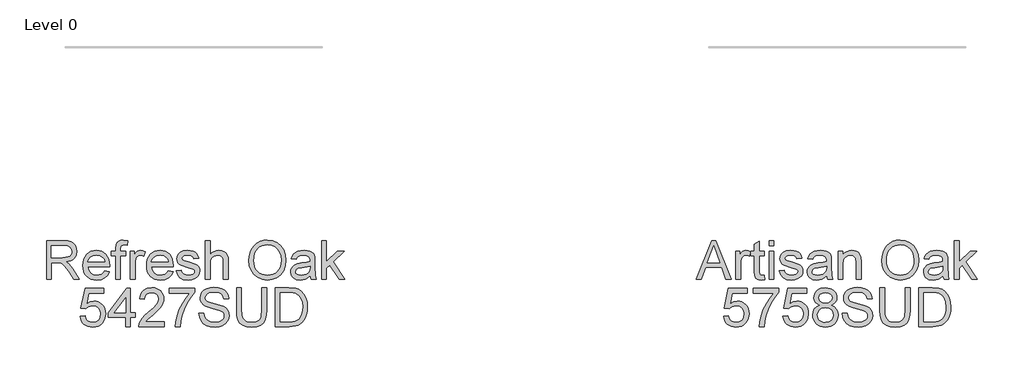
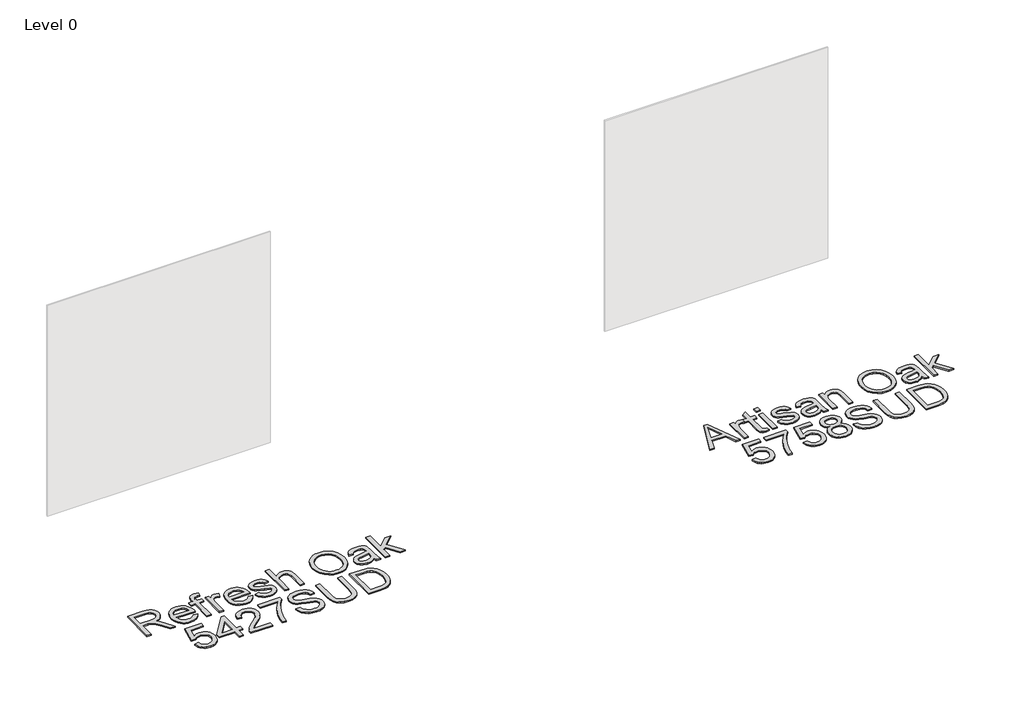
# One storey, part 6 of 7: 2 proxies.
"""IFC4 building model written with IfcOpenShell, lengths in millimetres."""

from ifc_helpers import new_model, si_unit, origin, origin_with_axes, place, context, project, spatial, polyline, outline, extrude, element, save

model = new_model("IFC4")

# Units and contexts
model_context = context("Model", 3, world=origin())
ifc_project = project(units=[si_unit("LENGTHUNIT", "METRE", prefix="MILLI")], contexts=[model_context])

# Site, building, storey
site = spatial("IfcSite", under=ifc_project)
building = spatial("IfcBuilding", under=site)
storey = spatial("IfcBuildingStorey", under=building, Name="Level 0", Elevation=0.0)

# Proxies
placement = place(None, origin())
element("IfcBuildingElementProxy", 1, Name="300mm Arial", ObjectType="300mm Arial", at=placement, inside=storey, context=model_context, shape_type="SweptSolid", body=[
    extrude(outline(polyline([(9452.3914105, -7002.860494), (9572.6888229, -6701.4915635), (9604.7681329, -6701.4915635), (9725.0655453, -7002.860494), (9685.2607134, -7002.860494), (9650.7533823, -6908.6827032), (9526.6299971, -6908.6827032), (9492.1962424, -7002.860494), (9452.3914105, -7002.860494)]), holes=[polyline([(9540.4623601, -6871.0115869), (9636.9945957, -6871.0115869), (9609.8449044, -6796.9201531), (9588.7284779, -6739.1626798), (9569.9664961, -6790.44543), (9540.4623601, -6871.0115869)])]), origin_with_axes(), (0.0, 0.0, 1.0), 10.0),
    extrude(outline(polyline([(9981.9207543, -6971.4433716), (9986.6296439, -7003.96414), (9958.449883, -7007.5693835), (9940.368483, -7006.005885), (9926.8856079, -7001.3153896), (9917.3574642, -6994.0865084), (9911.1402585, -6984.9078526), (9907.7189559, -6969.1441091), (9906.5785217, -6942.1599648), (9906.5785217, -6819.213802), (9878.3251845, -6819.213802), (9878.3251845, -6788.4588672), (9878.3251845, -6781.5426857), (9906.5785217, -6781.5426857), (9906.5785217, -6727.758338), (9944.249638, -6705.6118419), (9944.249638, -6781.5426857), (9981.9207543, -6781.5426857), (9981.9207543, -6819.213802), (9944.249638, -6819.213802), (9944.249638, -6941.0563188), (9946.2362008, -6960.4804881), (9952.6741357, -6967.3598814), (9965.5132173, -6969.8982672), (9981.9207543, -6971.4433716)])), origin_with_axes(), (0.0, 0.0, 1.0), 10.0),
    extrude(outline(polyline([(9760.602946, -7002.860494), (9760.602946, -6781.5426857), (9793.5651728, -6781.5426857), (9793.5651728, -6814.2841833), (9805.7420668, -6795.3014723), (9816.9624677, -6784.1178596), (9828.2196567, -6778.654812), (9840.5069154, -6776.8337961), (9859.2688971, -6779.7400639), (9878.3251845, -6788.4588672), (9865.7436203, -6822.2304343), (9852.4998684, -6816.4362929), (9839.2561166, -6814.5049125), (9828.0081246, -6816.3627165), (9817.9557491, -6821.9361288), (9809.834754, -6830.8020848), (9804.3809035, -6842.5375205), (9799.8007726, -6863.5803706), (9798.2740623, -6886.5362071), (9798.2740623, -7002.860494), (9760.602946, -7002.860494)])), origin_with_axes(), (0.0, 0.0, 1.0), 10.0),
    extrude(outline(polyline([(10019.5918706, -6739.1626798), (10019.5918706, -6701.4915635), (10057.2629869, -6701.4915635), (10057.2629869, -6739.1626798), (10019.5918706, -6739.1626798)])), origin_with_axes(), (0.0, 0.0, 1.0), 10.0),
    extrude(outline(polyline([(10019.5918706, -7002.860494), (10019.5918706, -6781.5426857), (10057.2629869, -6781.5426857), (10057.2629869, -7002.860494), (10019.5918706, -7002.860494)])), origin_with_axes(), (0.0, 0.0, 1.0), 10.0),
    extrude(outline(polyline([(10099.6429928, -6936.9360404), (10137.3141091, -6932.2271509), (10143.2554033, -6948.3403823), (10154.7517157, -6960.1861825), (10171.8766225, -6967.470246), (10194.7037003, -6969.8982672), (10217.2548666, -6967.6725811), (10233.1105806, -6960.9955229), (10242.4915715, -6951.3202265), (10245.6185685, -6940.0998256), (10242.4731774, -6930.4981055), (10233.0370042, -6923.1772538), (10194.2622419, -6912.4350996), (10137.5348383, -6894.0042116), (10123.1782434, -6884.7427824), (10112.77638, -6872.4831149), (10106.4580067, -6858.0069584), (10104.3518823, -6842.0960621), (10106.0441395, -6827.5003439), (10111.120911, -6814.0266659), (10119.1223444, -6802.2084568), (10129.5885872, -6792.5791455), (10153.5377051, -6781.4323211), (10185.9481089, -6776.8337961), (10210.4674438, -6778.6824032), (10231.7862055, -6784.2282242), (10248.9295064, -6792.9286334), (10260.9224595, -6804.2410048), (10268.8687106, -6819.0022698), (10273.8719057, -6838.0493601), (10236.2007894, -6842.7582497), (10231.4459146, -6830.9032524), (10222.0373326, -6821.972917), (10207.8830728, -6816.3719136), (10188.8911648, -6814.5049125), (10167.2597035, -6816.2891401), (10152.8387293, -6821.6418232), (10144.7269313, -6829.3673451), (10142.0229986, -6838.2700893), (10146.511159, -6849.2329728), (10160.5642512, -6857.5471059), (10193.0114432, -6865.5669334), (10248.304107, -6883.2988455), (10262.9090222, -6891.7785255), (10273.9822703, -6903.3852025), (10280.9628312, -6918.1556646), (10283.2896848, -6936.1267001), (10280.558161, -6954.7047408), (10272.3635895, -6972.1791356), (10259.0186701, -6987.1795239), (10240.8361025, -6998.3355454), (10218.8735474, -7005.260924), (10194.1886655, -7007.5693835), (10156.2048495, -7003.1180114), (10128.4849412, -6989.763895), (10109.9804769, -6967.654187), (10099.6429928, -6936.9360404)])), origin_with_axes(), (0.0, 0.0, 1.0), 10.0),
    extrude(outline(polyline([(10466.9363768, -6974.6071568), (10448.9377502, -6990.0398064), (10430.4056947, -7000.1381672), (10410.917146, -7005.7115794), (10390.0490398, -7007.5693835), (10358.567538, -7003.0996173), (10335.3449871, -6989.6903186), (10321.0251804, -6969.3280501), (10316.2519115, -6943.9993748), (10318.0545333, -6928.3827841), (10323.4623987, -6914.2009331), (10331.8041229, -6902.0608273), (10342.4083214, -6892.5694718), (10368.7854605, -6880.2086368), (10401.3798052, -6874.5432541), (10439.8970501, -6868.5835657), (10466.7156476, -6861.5938078), (10466.9363768, -6853.2060983), (10464.3428087, -6836.3938912), (10456.5621045, -6825.3942195), (10439.1612861, -6817.2272392), (10414.9178627, -6814.5049125), (10392.4770609, -6816.3167313), (10376.805288, -6821.7521878), (10366.118316, -6831.8045633), (10358.6319174, -6847.4671392), (10320.9608011, -6842.7582497), (10327.4999036, -6822.156858), (10337.2579735, -6805.9700502), (10351.1455188, -6793.590821), (10370.0730474, -6784.4121652), (10393.222022, -6778.7283884), (10419.773905, -6776.8337961), (10445.2405361, -6778.5076592), (10465.4280606, -6783.5292485), (10480.6491781, -6791.0800264), (10491.2165885, -6800.3414556), (10498.2247405, -6811.7917827), (10502.7680831, -6825.9092543), (10504.6074931, -6858.8714811), (10504.6074931, -6905.7396473), (10506.5204795, -6971.1858542), (10514.0252722, -7002.860494), (10476.3541558, -7002.860494), (10466.9363768, -6974.6071568)]), holes=[polyline([(10466.9363768, -6899.2649241), (10406.1622712, -6910.8164188), (10373.7518674, -6916.9232599), (10359.0733758, -6926.8560738), (10353.9230279, -6941.3506244), (10356.7281281, -6952.5526311), (10365.1434287, -6961.7312869), (10378.9849888, -6967.8565221), (10398.0688673, -6969.8982672), (10418.302377, -6967.64499), (10436.181442, -6960.8851583), (10450.6759926, -6950.9247533), (10460.7559593, -6939.069756), (10465.2257255, -6926.8560738), (10466.7156476, -6909.933502), (10466.9363768, -6899.2649241)])]), origin_with_axes(), (0.0, 0.0, 1.0), 10.0),
    extrude(outline(polyline([(10556.405278, -7002.860494), (10556.405278, -6781.5426857), (10594.0763943, -6781.5426857), (10594.0763943, -6812.4447733), (10607.1637963, -6796.8649708), (10622.8815545, -6785.7365404), (10641.229669, -6779.0594822), (10662.2081398, -6776.8337961), (10680.7769835, -6778.6272209), (10697.7823287, -6784.0074951), (10711.9641797, -6792.303234), (10722.0625404, -6802.8430532), (10733.3565177, -6830.5445674), (10735.3430805, -6866.964885), (10735.3430805, -7002.860494), (10697.6719641, -7002.860494), (10697.6719641, -6872.0416565), (10693.3309566, -6838.7115477), (10687.325283, -6828.7879309), (10677.9902774, -6821.0900002), (10666.0249155, -6816.1511844), (10652.1281731, -6814.5049125), (10630.0644505, -6818.2021265), (10611.2564835, -6829.2937687), (10603.7401945, -6838.3482643), (10598.3714166, -6850.7228949), (10594.0763943, -6885.4325611), (10594.0763943, -7002.860494), (10556.405278, -7002.860494)])), origin_with_axes(), (0.0, 0.0, 1.0), 10.0),
    extrude(outline(polyline([(10895.4453248, -6856.1491543), (10897.9561194, -6820.8002931), (10905.4885032, -6789.5073309), (10918.0424763, -6762.2702677), (10935.6180386, -6739.0891034), (10957.162128, -6720.5800406), (10981.6216821, -6707.3592814), (11008.9967011, -6699.4268258), (11039.2871849, -6696.782674), (11078.8161053, -6701.7490809), (11114.2615355, -6716.6483017), (11143.6920951, -6740.4318727), (11165.1764036, -6772.0513302), (11178.3097908, -6809.9799639), (11182.6875866, -6852.6910636), (11178.0798646, -6895.9723803), (11164.2566986, -6934.4344429), (11141.9814438, -6966.1090827), (11112.0174553, -6989.028131), (11076.8755277, -7002.9340704), (11039.0664557, -7007.5693835), (10998.93053, -7002.4466267), (10963.2827647, -6987.0783564), (10933.9257815, -6962.853327), (10912.6622021, -6931.1602931), (10899.7495441, -6894.6939903), (10895.4453248, -6856.1491543)]), holes=[polyline([(10933.1164411, -6856.5170363), (10934.999537, -6881.4916252), (10940.6488249, -6903.661114), (10950.0643047, -6923.0255025), (10963.2459765, -6939.5847908), (10979.2695366, -6952.8469367), (10997.2106817, -6962.3198981), (11017.0694116, -6968.0036749), (11038.8457265, -6969.8982672), (11060.9945218, -6967.9852808), (11081.0877766, -6962.2463217), (11099.1254906, -6952.6813898), (11115.1076641, -6939.2904852), (11128.1927668, -6922.381709), (11137.5392687, -6902.2631624), (11143.1471699, -6878.9348454), (11145.0164703, -6852.396758), (11141.8158969, -6819.0482551), (11132.2141769, -6790.2247008), (11116.4596304, -6766.6526619), (11094.8005779, -6749.0587055), (11068.6717592, -6738.1050191), (11039.5079141, -6734.4537903), (11018.4880566, -6736.2127261), (10998.9857123, -6741.4895335), (10981.0008813, -6750.2842124), (10964.5335634, -6762.5967629), (10950.7885724, -6779.0203948), (10940.9707217, -6800.1483176), (10935.0800112, -6825.9805314), (10933.1164411, -6856.5170363)])]), origin_with_axes(), (0.0, 0.0, 1.0), 10.0),
    extrude(outline(polyline([(11371.0431681, -6974.6071568), (11353.0445415, -6990.0398064), (11334.512486, -7000.1381672), (11315.0239373, -7005.7115794), (11294.1558311, -7007.5693835), (11262.6743294, -7003.0996173), (11239.4517784, -6989.6903186), (11225.1319718, -6969.3280501), (11220.3587029, -6943.9993748), (11222.1613247, -6928.3827841), (11227.56919, -6914.2009331), (11235.9109142, -6902.0608273), (11246.5151128, -6892.5694718), (11272.8922518, -6880.2086368), (11305.4865966, -6874.5432541), (11344.0038415, -6868.5835657), (11370.8224389, -6861.5938078), (11371.0431681, -6853.2060983), (11368.4496001, -6836.3938912), (11360.6688959, -6825.3942195), (11343.2680775, -6817.2272392), (11319.024654, -6814.5049125), (11296.5838523, -6816.3167313), (11280.9120793, -6821.7521878), (11270.2251073, -6831.8045633), (11262.7387087, -6847.4671392), (11225.0675924, -6842.7582497), (11231.6066949, -6822.156858), (11241.3647648, -6805.9700502), (11255.2523101, -6793.590821), (11274.1798388, -6784.4121652), (11297.3288133, -6778.7283884), (11323.8806963, -6776.8337961), (11349.3473275, -6778.5076592), (11369.5348519, -6783.5292485), (11384.7559695, -6791.0800264), (11395.3233798, -6800.3414556), (11402.3315318, -6811.7917827), (11406.8748744, -6825.9092543), (11408.7142844, -6858.8714811), (11408.7142844, -6905.7396473), (11410.6272708, -6971.1858542), (11418.1320635, -7002.860494), (11380.4609472, -7002.860494), (11371.0431681, -6974.6071568)]), holes=[polyline([(11371.0431681, -6899.2649241), (11310.2690625, -6910.8164188), (11277.8586587, -6916.9232599), (11263.1801671, -6926.8560738), (11258.0298192, -6941.3506244), (11260.8349194, -6952.5526311), (11269.2502201, -6961.7312869), (11283.0917801, -6967.8565221), (11302.1756586, -6969.8982672), (11322.4091684, -6967.64499), (11340.2882333, -6960.8851583), (11354.7827839, -6950.9247533), (11364.8627506, -6939.069756), (11369.3325168, -6926.8560738), (11370.8224389, -6909.933502), (11371.0431681, -6899.2649241)])]), origin_with_axes(), (0.0, 0.0, 1.0), 10.0),
    extrude(outline(polyline([(11460.5120693, -7002.860494), (11460.5120693, -6701.4915635), (11498.1831857, -6701.4915635), (11498.1831857, -6863.4332178), (11582.6488917, -6781.5426857), (11634.7409823, -6781.5426857), (11549.2452066, -6864.4632874), (11639.4498718, -7002.860494), (11595.4511852, -7002.860494), (11522.2426681, -6890.6564855), (11498.1831857, -6913.9802039), (11498.1831857, -7002.860494), (11460.5120693, -7002.860494)])), origin_with_axes(), (0.0, 0.0, 1.0), 10.0),
    extrude(outline(polyline([(9666.4251553, -7288.7338254), (9704.0962716, -7284.0249358), (9711.0124531, -7306.6404815), (9723.0789825, -7322.8364863), (9740.2406776, -7332.5761621), (9762.442356, -7335.8227207), (9789.4448945, -7331.3069693), (9809.6784042, -7317.7597148), (9822.3151507, -7296.7444558), (9826.5273996, -7269.8246908), (9822.5818652, -7244.4776213), (9810.745262, -7225.0902402), (9790.9256195, -7212.7845875), (9763.0309672, -7208.6827032), (9744.7564291, -7210.3197781), (9729.9583758, -7215.2310027), (9708.8051611, -7232.2271509), (9671.1340448, -7227.5182614), (9704.0962716, -7072.1249066), (9850.0718473, -7072.1249066), (9850.0718473, -7109.7960229), (9734.5569008, -7109.7960229), (9718.4436694, -7192.790201), (9745.3542373, -7176.4562404), (9773.5523923, -7171.0115869), (9791.8982075, -7172.6992456), (9808.7495022, -7177.7622215), (9824.1062762, -7186.2005148), (9837.9685296, -7198.0141254), (9849.4441486, -7212.4810848), (9857.6410193, -7228.8794248), (9862.5591417, -7247.2091452), (9864.1985159, -7267.470246), (9858.2940099, -7305.1413624), (9850.9133773, -7321.9351754), (9840.5804918, -7337.3678251), (9824.9271129, -7353.1729553), (9806.6617718, -7364.4623341), (9785.7844686, -7371.2359613), (9762.2952032, -7373.4938371), (9725.2954715, -7367.6904986), (9709.6168008, -7360.4363255), (9695.8189267, -7350.2804832), (9684.3387092, -7337.7288093), (9675.6130081, -7323.2871418), (9666.4251553, -7288.7338254)])), origin_with_axes(), (0.0, 0.0, 1.0), 10.0),
    extrude(outline(polyline([(9897.1607426, -7109.7960229), (9897.1607426, -7072.1249066), (10094.9341033, -7072.1249066), (10094.9341033, -7102.5855358), (10066.7451454, -7138.2608923), (10038.832099, -7183.6299393), (10014.2115965, -7234.5540045), (9995.9002701, -7286.8944154), (9986.9239495, -7326.0554538), (9981.9207543, -7368.7849475), (9944.249638, -7368.7849475), (9948.3239311, -7329.9550029), (9959.2224352, -7283.8042066), (9976.6508448, -7234.8850983), (10000.3148541, -7187.7502177), (10027.9427919, -7145.1402856), (10057.2629869, -7109.7960229), (9897.1607426, -7109.7960229)])), origin_with_axes(), (0.0, 0.0, 1.0), 10.0),
    extrude(outline(polyline([(10127.89633, -7288.7338254), (10165.5674463, -7284.0249358), (10172.4836278, -7306.6404815), (10184.5501573, -7322.8364863), (10201.7118524, -7332.5761621), (10223.9135308, -7335.8227207), (10250.9160692, -7331.3069693), (10271.1495789, -7317.7597148), (10283.7863255, -7296.7444558), (10287.9985743, -7269.8246908), (10284.0530399, -7244.4776213), (10272.2164367, -7225.0902402), (10252.3967942, -7212.7845875), (10224.502142, -7208.6827032), (10206.2276038, -7210.3197781), (10191.4295506, -7215.2310027), (10170.2763359, -7232.2271509), (10132.6052196, -7227.5182614), (10165.5674463, -7072.1249066), (10311.543022, -7072.1249066), (10311.543022, -7109.7960229), (10196.0280755, -7109.7960229), (10179.9148441, -7192.790201), (10206.8254121, -7176.4562404), (10235.023567, -7171.0115869), (10253.3693823, -7172.6992456), (10270.2206769, -7177.7622215), (10285.5774509, -7186.2005148), (10299.4397044, -7198.0141254), (10310.9153234, -7212.4810848), (10319.1121941, -7228.8794248), (10324.0303165, -7247.2091452), (10325.6696906, -7267.470246), (10319.7651846, -7305.1413624), (10312.3845521, -7321.9351754), (10302.0516665, -7337.3678251), (10286.3982876, -7353.1729553), (10268.1329466, -7364.4623341), (10247.2556434, -7371.2359613), (10223.766378, -7373.4938371), (10186.7666463, -7367.6904986), (10171.0879755, -7360.4363255), (10157.2901014, -7350.2804832), (10145.8098839, -7337.7288093), (10137.0841828, -7323.2871418), (10127.89633, -7288.7338254)])), origin_with_axes(), (0.0, 0.0, 1.0), 10.0),
    extrude(outline(polyline([(10413.5199111, -7202.7965913), (10393.3507807, -7192.8637774), (10379.1965209, -7179.3992964), (10370.8364026, -7162.6790597), (10368.0496965, -7142.9789789), (10369.5672097, -7127.6153071), (10374.1197494, -7113.5300252), (10381.7073155, -7100.7231332), (10392.3299082, -7089.1946312), (10405.477091, -7079.6664875), (10420.6384277, -7072.8606706), (10457.0035629, -7067.4160171), (10493.5894273, -7072.9894293), (10508.9163109, -7079.9561946), (10522.2658288, -7089.709666), (10533.0815595, -7101.4634957), (10540.8070814, -7114.4313361), (10545.4423945, -7128.613187), (10546.9874989, -7144.0090485), (10544.237581, -7163.0745329), (10535.9878273, -7179.509661), (10522.1462672, -7192.8913686), (10502.6209303, -7202.7965913), (10525.8066931, -7214.7435591), (10542.6832796, -7232.3375155), (10552.9747784, -7254.732332), (10556.405278, -7281.0818799), (10554.7038238, -7299.8714528), (10549.5994611, -7317.0975272), (10541.09219, -7332.7601031), (10529.1820104, -7346.8591806), (10514.4943217, -7358.5118428), (10497.6545234, -7366.8351729), (10478.6626154, -7371.829171), (10457.5185977, -7373.4938371), (10436.37458, -7371.8222732), (10417.382672, -7366.8075818), (10400.5428737, -7358.4497627), (10385.855185, -7346.748816), (10373.9450054, -7332.5508703), (10365.4377343, -7316.702054), (10360.3333716, -7299.2023674), (10358.6319174, -7280.0518103), (10362.2003727, -7252.6813898), (10372.9057388, -7230.1670117), (10390.1961926, -7213.2812282), (10413.5199111, -7202.7965913)]), holes=[polyline([(10405.7208128, -7144.0826249), (10409.0593419, -7160.52695), (10419.0749292, -7173.6603373), (10435.4732691, -7182.268776), (10457.9600561, -7185.1382555), (10479.9226112, -7182.2871701), (10496.0726308, -7173.7339137), (10506.0054447, -7161.0419848), (10509.3163826, -7145.774882), (10505.8950801, -7129.9283651), (10495.6311724, -7116.822569), (10479.2604236, -7108.0209923), (10457.5185977, -7105.0871334), (10435.638816, -7107.9566129), (10419.2956584, -7116.5650516), (10409.1145242, -7129.1834041), (10405.7208128, -7144.0826249)]), polyline([(10396.3030337, -7278.7274351), (10402.5938158, -7307.0911369), (10411.3034221, -7319.2588339), (10424.8506765, -7328.317928), (10441.0742725, -7333.9465226), (10457.8129033, -7335.8227207), (10483.4542784, -7331.8771864), (10502.6945067, -7320.0405832), (10514.7242479, -7302.1155329), (10518.7341617, -7279.9046575), (10514.5954892, -7257.316703), (10502.1794719, -7238.9961796), (10482.4977852, -7226.8560738), (10456.5621045, -7222.8093718), (10431.2794144, -7226.8008915), (10412.2323241, -7238.7754504), (10400.2853563, -7256.7464859), (10396.3030337, -7278.7274351)])]), origin_with_axes(), (0.0, 0.0, 1.0), 10.0),
    extrude(outline(polyline([(10589.3675048, -7265.1893777), (10627.0386211, -7265.1893777), (10631.3612345, -7286.0942721), (10639.1787269, -7302.8972822), (10651.3740151, -7316.2330045), (10668.8300157, -7326.7360355), (10690.1671714, -7333.5510494), (10714.0059247, -7335.8227207), (10734.9935926, -7334.1028724), (10753.3692982, -7328.9433274), (10768.259322, -7320.7763471), (10778.7899441, -7310.0341929), (10785.0531351, -7297.700949), (10787.1408654, -7284.7606998), (10785.5773669, -7272.1515444), (10780.8868715, -7261.2530403), (10771.3587278, -7251.9548229), (10755.2822846, -7244.1465276), (10700.4310791, -7229.7623415), (10664.4246288, -7220.2433949), (10641.3860189, -7211.1843008), (10622.6332342, -7198.510766), (10609.3434971, -7183.1516928), (10601.4248372, -7165.4381747), (10598.7852838, -7145.7013056), (10602.0502366, -7123.637583), (10611.8450947, -7103.0637824), (10627.9123408, -7085.6261758), (10649.9944576, -7072.9710352), (10676.5003553, -7065.2731044), (10705.8389444, -7062.7071275), (10737.6239488, -7065.3926661), (10765.4358277, -7073.4492818), (10788.2812996, -7086.7114277), (10805.1670831, -7105.013557), (10815.8540551, -7127.2152354), (10820.1030921, -7152.1760288), (10782.4319758, -7152.1760288), (10775.5157943, -7129.6984389), (10761.0948201, -7113.4748429), (10738.5620479, -7103.6523936), (10707.3104724, -7100.3782438), (10675.3231329, -7103.6156054), (10653.3789719, -7113.3276901), (10640.6870431, -7127.6199056), (10636.4564002, -7144.5976597), (10639.4546384, -7159.0738162), (10648.4493532, -7170.7172813), (10669.7129325, -7181.1283418), (10709.9592228, -7191.7601314), (10751.4931, -7201.8584922), (10776.6194403, -7210.669266), (10798.0945518, -7224.3360821), (10813.076546, -7241.2034716), (10821.8781228, -7261.0874934), (10824.8119817, -7283.8042066), (10821.4366644, -7307.0267576), (10811.3107125, -7328.869751), (10794.8479932, -7347.668521), (10772.4623738, -7361.7584014), (10745.5426088, -7370.5599781), (10715.4774527, -7373.4938371), (10678.5696915, -7370.3300519), (10648.1918358, -7360.8386964), (10623.9943976, -7344.9829824), (10605.627889, -7322.7261217), (10593.837271, -7295.6132187), (10589.3675048, -7265.1893777)])), origin_with_axes(), (0.0, 0.0, 1.0), 10.0),
    extrude(outline(polyline([(11079.0920167, -7067.4160171), (11116.7631331, -7067.4160171), (11116.7631331, -7241.277048), (11114.2063532, -7281.9923878), (11106.5360136, -7313.3451308), (11092.2070099, -7337.533372), (11069.6742377, -7356.7552063), (11038.8825147, -7369.3091794), (10999.7766586, -7373.4938371), (10961.5261281, -7369.8518053), (10930.9459373, -7358.92571), (10908.026889, -7341.0926303), (10892.7597862, -7316.7296452), (10884.1789387, -7284.052527), (10881.3186561, -7241.277048), (10881.3186561, -7067.4160171), (10918.9897724, -7067.4160171), (10918.9897724, -7239.9526728), (10920.8475765, -7273.8070134), (10926.4209887, -7297.3790523), (10936.5193495, -7313.7038158), (10951.9519992, -7325.8163305), (10972.0751444, -7333.3211232), (10996.2449914, -7335.8227207), (11034.5599012, -7330.8747079), (11048.9027005, -7324.6896919), (11060.0357294, -7316.0306694), (11068.3728551, -7303.8537754), (11074.3279449, -7287.1151446), (11079.0920167, -7239.9526728), (11079.0920167, -7067.4160171)])), origin_with_axes(), (0.0, 0.0, 1.0), 10.0),
    extrude(outline(polyline([(11182.6875866, -7368.7849475), (11182.6875866, -7067.4160171), (11286.6510384, -7067.4160171), (11340.4353861, -7071.7570246), (11364.4580804, -7080.12634), (11384.7283783, -7093.3149095), (11405.5688934, -7116.270746), (11420.4129319, -7144.8183889), (11429.2972821, -7178.406015), (11432.2587321, -7216.4818015), (11430.2537752, -7248.8278259), (11424.2389046, -7277.2926953), (11415.0786429, -7301.5269217), (11403.6375129, -7321.1810173), (11390.4673375, -7336.6964405), (11376.1199397, -7348.5146496), (11359.6480233, -7357.2794381), (11340.1042923, -7363.6345996), (11291.6542336, -7368.7849475), (11182.6875866, -7368.7849475)]), holes=[polyline([(11220.3587029, -7331.1138312), (11287.0189204, -7331.1138312), (11314.591676, -7329.7526678), (11335.5057674, -7325.6691777), (11351.287905, -7319.1024841), (11363.464799, -7310.2917103), (11376.552201, -7293.9853408), (11386.3838473, -7272.8781114), (11392.5366737, -7246.8780514), (11394.5876158, -7215.8931903), (11390.568505, -7174.8375597), (11378.5111726, -7144.5240833), (11360.696487, -7123.7019623), (11339.4053165, -7111.1203981), (11317.737067, -7106.5954496), (11285.9888508, -7105.0871334), (11220.3587029, -7105.0871334), (11220.3587029, -7331.1138312)])]), origin_with_axes(), (0.0, 0.0, 1.0), 10.0),
])
element("IfcBuildingElementProxy", 2, Name="300mm Arial", ObjectType="300mm Arial", at=placement, inside=storey, context=model_context, shape_type="SweptSolid", body=[
    extrude(outline(polyline([(4405.0817859, -7002.860494), (4405.0817859, -6701.4915635), (4534.9441302, -6701.4915635), (4569.8469345, -6703.5241116), (4595.2399892, -6709.6217556), (4613.7996359, -6720.8789447), (4628.202216, -6738.3901276), (4637.4452511, -6760.1043624), (4640.5262628, -6783.9707069), (4635.4219001, -6813.6587839), (4620.1088121, -6838.2700893), (4608.5090329, -6848.2994722), (4594.1271462, -6856.3147012), (4557.0170499, -6866.3026974), (4578.427782, -6882.4159288), (4608.9619876, -6921.1906911), (4659.2146682, -7002.860494), (4615.4367107, -7002.860494), (4576.2204901, -6940.3941312), (4547.8935764, -6899.0441949), (4527.9911605, -6879.509661), (4510.0753073, -6872.3359621), (4488.2231168, -6871.0115869), (4442.7529022, -6871.0115869), (4442.7529022, -7002.860494), (4405.0817859, -7002.860494)]), holes=[polyline([(4442.7529022, -6833.3404706), (4527.0714555, -6833.3404706), (4551.2872878, -6832.0068984), (4570.0768607, -6828.0061817), (4584.2219234, -6821.0716061), (4594.5042252, -6810.9364571), (4600.7674162, -6798.6767896), (4602.8551465, -6785.3686584), (4598.8728239, -6766.9929528), (4586.9258561, -6752.1857025), (4566.3704496, -6742.4184355), (4536.562811, -6739.1626798), (4442.7529022, -6739.1626798), (4442.7529022, -6833.3404706)])]), origin_with_axes(), (0.0, 0.0, 1.0), 10.0),
    extrude(outline(polyline([(4856.6937232, -6936.9360404), (4893.6290755, -6941.64493), (4880.3209443, -6969.4752029), (4859.0849561, -6990.2789297), (4830.3993576, -7003.2467701), (4794.7423952, -7007.5693835), (4771.3680929, -7005.7046817), (4750.5413735, -7000.1105761), (4732.2622368, -6990.7870668), (4716.530683, -6977.7341537), (4703.8801409, -6961.3151204), (4694.8440394, -6941.8932503), (4689.4223785, -6919.4685435), (4687.6151582, -6894.0409998), (4689.4407726, -6867.7512327), (4694.9176158, -6844.5792656), (4704.0456878, -6824.5250983), (4716.8249886, -6807.5887309), (4732.5151557, -6794.133447), (4750.3758266, -6784.5225298), (4770.4070012, -6778.7559796), (4792.6086796, -6776.8337961), (4814.0952874, -6778.751381), (4833.5263545, -6784.5041357), (4850.901881, -6794.0920602), (4866.2218668, -6807.5151545), (4878.7275554, -6824.4147337), (4887.6601901, -6844.4321128), (4893.0197709, -6867.5672917), (4894.8062979, -6893.8202706), (4894.5855687, -6903.9738137), (4725.2862745, -6903.9738137), (4731.8069829, -6932.1719686), (4746.954524, -6952.902119), (4768.8159116, -6965.6492302), (4795.4781592, -6969.8982672), (4815.5277279, -6967.9300985), (4832.4135115, -6962.0255925), (4846.1355099, -6951.8168672), (4856.6937232, -6936.9360404)]), holes=[polyline([(4725.2862745, -6866.3026974), (4857.1351816, -6866.3026974), (4852.0400159, -6846.4002814), (4842.0520198, -6832.1632482), (4820.0894647, -6818.9194964), (4792.4615268, -6814.5049125), (4767.0684721, -6818.0273826), (4746.0716072, -6828.5947929), (4731.4758891, -6845.0667092), (4725.2862745, -6866.3026974)])]), origin_with_axes(), (0.0, 0.0, 1.0), 10.0),
    extrude(outline(polyline([(4941.8951933, -7002.860494), (4941.8951933, -6819.213802), (4908.9329665, -6819.213802), (4908.9329665, -6781.5426857), (4941.8951933, -6781.5426857), (4941.8951933, -6759.2490368), (4945.8683188, -6727.8319144), (4953.4466879, -6715.3055325), (4965.1453354, -6705.3911127), (4981.5160841, -6698.9347837), (5003.1107573, -6696.782674), (5037.4709356, -6700.9029523), (5031.9527057, -6736.2196239), (5010.247668, -6734.4537903), (4995.9278613, -6736.0172888), (4986.5192793, -6740.7077842), (4981.304552, -6749.6657108), (4979.5663096, -6764.0315027), (4979.5663096, -6781.5426857), (5021.9463154, -6781.5426857), (5021.9463154, -6819.213802), (4979.5663096, -6819.213802), (4979.5663096, -7002.860494), (4941.8951933, -7002.860494)])), origin_with_axes(), (0.0, 0.0, 1.0), 10.0),
    extrude(outline(polyline([(5054.9085422, -7002.860494), (5054.9085422, -6781.5426857), (5087.8707689, -6781.5426857), (5087.8707689, -6814.2841833), (5100.047663, -6795.3014723), (5111.2680638, -6784.1178596), (5122.5252529, -6778.654812), (5134.8125115, -6776.8337961), (5153.5744933, -6779.7400639), (5172.6307806, -6788.4588672), (5160.0492164, -6822.2304343), (5146.8054646, -6816.4362929), (5133.5617127, -6814.5049125), (5122.3137207, -6816.3627165), (5112.2613452, -6821.9361288), (5104.1403502, -6830.8020848), (5098.6864996, -6842.5375205), (5094.1063688, -6863.5803706), (5092.5796585, -6886.5362071), (5092.5796585, -7002.860494), (5054.9085422, -7002.860494)])), origin_with_axes(), (0.0, 0.0, 1.0), 10.0),
    extrude(outline(polyline([(5351.1271247, -6936.9360404), (5388.062477, -6941.64493), (5374.7543458, -6969.4752029), (5353.5183577, -6990.2789297), (5324.8327591, -7003.2467701), (5289.1757967, -7007.5693835), (5265.8014944, -7005.7046817), (5244.974775, -7000.1105761), (5226.6956383, -6990.7870668), (5210.9640845, -6977.7341537), (5198.3135424, -6961.3151204), (5189.2774409, -6941.8932503), (5183.85578, -6919.4685435), (5182.0485597, -6894.0409998), (5183.8741741, -6867.7512327), (5189.3510173, -6844.5792656), (5198.4790893, -6824.5250983), (5211.2583901, -6807.5887309), (5226.9485572, -6794.133447), (5244.8092281, -6784.5225298), (5264.8404027, -6778.7559796), (5287.0420811, -6776.8337961), (5308.5286889, -6778.751381), (5327.959756, -6784.5041357), (5345.3352825, -6794.0920602), (5360.6552684, -6807.5151545), (5373.1609569, -6824.4147337), (5382.0935916, -6844.4321128), (5387.4531725, -6867.5672917), (5389.2396994, -6893.8202706), (5389.0189702, -6903.9738137), (5219.719676, -6903.9738137), (5226.2403844, -6932.1719686), (5241.3879255, -6952.902119), (5263.2493131, -6965.6492302), (5289.9115607, -6969.8982672), (5309.9611294, -6967.9300985), (5326.846913, -6962.0255925), (5340.5689114, -6951.8168672), (5351.1271247, -6936.9360404)]), holes=[polyline([(5219.719676, -6866.3026974), (5351.5685831, -6866.3026974), (5346.4734175, -6846.4002814), (5336.4854213, -6832.1632482), (5314.5228662, -6818.9194964), (5286.8949283, -6814.5049125), (5261.5018736, -6818.0273826), (5240.5050087, -6828.5947929), (5225.9092906, -6845.0667092), (5219.719676, -6866.3026974)])]), origin_with_axes(), (0.0, 0.0, 1.0), 10.0),
    extrude(outline(polyline([(5412.7841471, -6936.9360404), (5450.4552634, -6932.2271509), (5456.3965576, -6948.3403823), (5467.89287, -6960.1861825), (5485.0177768, -6967.470246), (5507.8448546, -6969.8982672), (5530.3960209, -6967.6725811), (5546.2517349, -6960.9955229), (5555.6327258, -6951.3202265), (5558.7597228, -6940.0998256), (5555.6143317, -6930.4981055), (5546.1781585, -6923.1772538), (5507.4033962, -6912.4350996), (5450.6759926, -6894.0042116), (5436.3193977, -6884.7427824), (5425.9175343, -6872.4831149), (5419.599161, -6858.0069584), (5417.4930366, -6842.0960621), (5419.1852938, -6827.5003439), (5424.2620653, -6814.0266659), (5432.2634987, -6802.2084568), (5442.7297415, -6792.5791455), (5466.6788594, -6781.4323211), (5499.0892632, -6776.8337961), (5523.6085981, -6778.6824032), (5544.9273598, -6784.2282242), (5562.0706607, -6792.9286334), (5574.0636138, -6804.2410048), (5582.0098649, -6819.0022698), (5587.01306, -6838.0493601), (5549.3419437, -6842.7582497), (5544.5870689, -6830.9032524), (5535.1784869, -6821.972917), (5521.0242271, -6816.3719136), (5502.0323191, -6814.5049125), (5480.4008578, -6816.2891401), (5465.9798836, -6821.6418232), (5457.8680856, -6829.3673451), (5455.1641529, -6838.2700893), (5459.6523133, -6849.2329728), (5473.7054055, -6857.5471059), (5506.1525975, -6865.5669334), (5561.4452613, -6883.2988455), (5576.0501765, -6891.7785255), (5587.1234246, -6903.3852025), (5594.1039855, -6918.1556646), (5596.4308391, -6936.1267001), (5593.6993153, -6954.7047408), (5585.5047438, -6972.1791356), (5572.1598244, -6987.1795239), (5553.9772568, -6998.3355454), (5532.0147017, -7005.260924), (5507.3298198, -7007.5693835), (5469.3460038, -7003.1180114), (5441.6260955, -6989.763895), (5423.1216311, -6967.654187), (5412.7841471, -6936.9360404)])), origin_with_axes(), (0.0, 0.0, 1.0), 10.0),
    extrude(outline(polyline([(5638.8108449, -7002.860494), (5638.8108449, -6701.4915635), (5676.4819612, -6701.4915635), (5676.4819612, -6812.2976205), (5690.3189228, -6796.7821973), (5705.8573385, -6785.6997522), (5723.0972085, -6779.0502852), (5742.0385328, -6776.8337961), (5764.7920342, -6779.2526203), (5784.3449622, -6786.5090926), (5799.7408237, -6798.0329961), (5810.0231255, -6813.2541137), (5815.8172669, -6834.1682051), (5817.7486474, -6862.7710302), (5817.7486474, -7002.860494), (5780.0775311, -7002.860494), (5780.0775311, -6866.6705794), (5777.0792928, -6843.0893435), (5768.084578, -6826.9393239), (5753.5900274, -6817.6135153), (5734.0922817, -6814.5049125), (5718.1721883, -6816.6018398), (5703.2269823, -6822.8926219), (5690.8477531, -6832.7702535), (5682.6255905, -6845.6277292), (5678.0178686, -6862.7158479), (5676.4819612, -6885.2854083), (5676.4819612, -7002.860494), (5638.8108449, -7002.860494)])), origin_with_axes(), (0.0, 0.0, 1.0), 10.0),
    extrude(outline(polyline([(5977.8508917, -6856.1491543), (5980.3616863, -6820.8002931), (5987.8940701, -6789.5073309), (6000.4480432, -6762.2702677), (6018.0236055, -6739.0891034), (6039.5676949, -6720.5800406), (6064.027249, -6707.3592814), (6091.402268, -6699.4268258), (6121.6927518, -6696.782674), (6161.2216722, -6701.7490809), (6196.6671024, -6716.6483017), (6226.097662, -6740.4318727), (6247.5819705, -6772.0513302), (6260.7153578, -6809.9799639), (6265.0931535, -6852.6910636), (6260.4854315, -6895.9723803), (6246.6622656, -6934.4344429), (6224.3870107, -6966.1090827), (6194.4230222, -6989.028131), (6159.2810946, -7002.9340704), (6121.4720226, -7007.5693835), (6081.3360969, -7002.4466267), (6045.6883316, -6987.0783564), (6016.3313484, -6962.853327), (5995.067769, -6931.1602931), (5982.155111, -6894.6939903), (5977.8508917, -6856.1491543)]), holes=[polyline([(6015.522008, -6856.5170363), (6017.4051039, -6881.4916252), (6023.0543918, -6903.661114), (6032.4698716, -6923.0255025), (6045.6515434, -6939.5847908), (6061.6751035, -6952.8469367), (6079.6162486, -6962.3198981), (6099.4749785, -6968.0036749), (6121.2512934, -6969.8982672), (6143.4000888, -6967.9852808), (6163.4933435, -6962.2463217), (6181.5310576, -6952.6813898), (6197.513231, -6939.2904852), (6210.5983337, -6922.381709), (6219.9448357, -6902.2631624), (6225.5527368, -6878.9348454), (6227.4220372, -6852.396758), (6224.2214638, -6819.0482551), (6214.6197438, -6790.2247008), (6198.8651973, -6766.6526619), (6177.2061449, -6749.0587055), (6151.0773262, -6738.1050191), (6121.913481, -6734.4537903), (6100.8936235, -6736.2127261), (6081.3912792, -6741.4895335), (6063.4064482, -6750.2842124), (6046.9391304, -6762.5967629), (6033.1941393, -6779.0203948), (6023.3762886, -6800.1483176), (6017.4855781, -6825.9805314), (6015.522008, -6856.5170363)])]), origin_with_axes(), (0.0, 0.0, 1.0), 10.0),
    extrude(outline(polyline([(6453.448735, -6974.6071568), (6435.4501084, -6990.0398064), (6416.9180529, -7000.1381672), (6397.4295042, -7005.7115794), (6376.561398, -7007.5693835), (6345.0798963, -7003.0996173), (6321.8573454, -6989.6903186), (6307.5375387, -6969.3280501), (6302.7642698, -6943.9993748), (6304.5668916, -6928.3827841), (6309.9747569, -6914.2009331), (6318.3164812, -6902.0608273), (6328.9206797, -6892.5694718), (6355.2978187, -6880.2086368), (6387.8921635, -6874.5432541), (6426.4094084, -6868.5835657), (6453.2280058, -6861.5938078), (6453.448735, -6853.2060983), (6450.855167, -6836.3938912), (6443.0744628, -6825.3942195), (6425.6736444, -6817.2272392), (6401.4302209, -6814.5049125), (6378.9894192, -6816.3167313), (6363.3176462, -6821.7521878), (6352.6306743, -6831.8045633), (6345.1442757, -6847.4671392), (6307.4731594, -6842.7582497), (6314.0122618, -6822.156858), (6323.7703317, -6805.9700502), (6337.6578771, -6793.590821), (6356.5854057, -6784.4121652), (6379.7343803, -6778.7283884), (6406.2862633, -6776.8337961), (6431.7528944, -6778.5076592), (6451.9404189, -6783.5292485), (6467.1615364, -6791.0800264), (6477.7289467, -6800.3414556), (6484.7370987, -6811.7917827), (6489.2804414, -6825.9092543), (6491.1198513, -6858.8714811), (6491.1198513, -6905.7396473), (6493.0328377, -6971.1858542), (6500.5376304, -7002.860494), (6462.8665141, -7002.860494), (6453.448735, -6974.6071568)]), holes=[polyline([(6453.448735, -6899.2649241), (6392.6746294, -6910.8164188), (6360.2642257, -6916.9232599), (6345.5857341, -6926.8560738), (6340.4353861, -6941.3506244), (6343.2404863, -6952.5526311), (6351.655787, -6961.7312869), (6365.497347, -6967.8565221), (6384.5812255, -6969.8982672), (6404.8147353, -6967.64499), (6422.6938002, -6960.8851583), (6437.1883509, -6950.9247533), (6447.2683175, -6939.069756), (6451.7380838, -6926.8560738), (6453.2280058, -6909.933502), (6453.448735, -6899.2649241)])]), origin_with_axes(), (0.0, 0.0, 1.0), 10.0),
    extrude(outline(polyline([(6542.9176363, -7002.860494), (6542.9176363, -6701.4915635), (6580.5887526, -6701.4915635), (6580.5887526, -6863.4332178), (6665.0544587, -6781.5426857), (6717.1465492, -6781.5426857), (6631.6507735, -6864.4632874), (6721.8554387, -7002.860494), (6677.8567521, -7002.860494), (6604.6482351, -6890.6564855), (6580.5887526, -6913.9802039), (6580.5887526, -7002.860494), (6542.9176363, -7002.860494)])), origin_with_axes(), (0.0, 0.0, 1.0), 10.0),
    extrude(outline(polyline([(4666.4251553, -7288.7338254), (4704.0962716, -7284.0249358), (4711.0124531, -7306.6404815), (4723.0789825, -7322.8364863), (4740.2406776, -7332.5761621), (4762.442356, -7335.8227207), (4789.4448945, -7331.3069693), (4809.6784042, -7317.7597148), (4822.3151507, -7296.7444558), (4826.5273996, -7269.8246908), (4822.5818652, -7244.4776213), (4810.745262, -7225.0902402), (4790.9256195, -7212.7845875), (4763.0309672, -7208.6827032), (4744.7564291, -7210.3197781), (4729.9583758, -7215.2310027), (4708.8051611, -7232.2271509), (4671.1340448, -7227.5182614), (4704.0962716, -7072.1249066), (4850.0718473, -7072.1249066), (4850.0718473, -7109.7960229), (4734.5569008, -7109.7960229), (4718.4436694, -7192.790201), (4745.3542373, -7176.4562404), (4773.5523923, -7171.0115869), (4791.8982075, -7172.6992456), (4808.7495022, -7177.7622215), (4824.1062762, -7186.2005148), (4837.9685296, -7198.0141254), (4849.4441486, -7212.4810848), (4857.6410193, -7228.8794248), (4862.5591417, -7247.2091452), (4864.1985159, -7267.470246), (4858.2940099, -7305.1413624), (4850.9133773, -7321.9351754), (4840.5804918, -7337.3678251), (4824.9271129, -7353.1729553), (4806.6617718, -7364.4623341), (4785.7844686, -7371.2359613), (4762.2952032, -7373.4938371), (4725.2954715, -7367.6904986), (4709.6168008, -7360.4363255), (4695.8189267, -7350.2804832), (4684.3387092, -7337.7288093), (4675.6130081, -7323.2871418), (4666.4251553, -7288.7338254)])), origin_with_axes(), (0.0, 0.0, 1.0), 10.0),
    extrude(outline(polyline([(5019.5918706, -7368.7849475), (5019.5918706, -7298.1516044), (4883.034074, -7298.1516044), (4883.034074, -7260.4804881), (5029.0096497, -7072.1249066), (5057.2629869, -7072.1249066), (5057.2629869, -7260.4804881), (5094.9341033, -7260.4804881), (5094.9341033, -7298.1516044), (5057.2629869, -7298.1516044), (5057.2629869, -7368.7849475), (5019.5918706, -7368.7849475)]), holes=[polyline([(5019.5918706, -7260.4804881), (5019.5918706, -7144.0826249), (4929.3872054, -7260.4804881), (5019.5918706, -7260.4804881)])]), origin_with_axes(), (0.0, 0.0, 1.0), 10.0),
    extrude(outline(polyline([(5320.9608011, -7331.1138312), (5320.9608011, -7368.7849475), (5123.1874405, -7368.7849475), (5127.2341424, -7342.8124787), (5136.5231628, -7322.5145896), (5150.1164025, -7302.8237058), (5169.7796952, -7282.213117), (5197.2788743, -7259.156113), (5237.9298348, -7223.0484951), (5262.3204111, -7196.3954446), (5274.5156992, -7174.7639833), (5278.5807952, -7153.7211331), (5274.7456254, -7134.8579838), (5263.240116, -7119.1770138), (5245.5541891, -7108.6096035), (5223.1777668, -7105.0871334), (5199.6793043, -7108.52683), (5181.4231603, -7118.84592), (5169.6417394, -7135.2350629), (5165.5674463, -7156.8849183), (5127.89633, -7152.1760288), (5137.0290005, -7115.7373171), (5145.5753591, -7101.2013798), (5156.7750666, -7089.1210548), (5170.3706056, -7079.6251008), (5186.1044587, -7072.8422765), (5223.9871072, -7067.4160171), (5244.1769309, -7068.9243332), (5262.1456671, -7073.4492818), (5277.8933158, -7080.9908627), (5291.4198769, -7091.549076), (5302.283892, -7104.3421723), (5310.0439029, -7118.5884026), (5314.6999094, -7134.2877667), (5316.2519115, -7151.4402648), (5314.5780485, -7169.4572855), (5309.5564592, -7187.1616065), (5300.6445179, -7205.1694302), (5287.2995985, -7224.0969588), (5266.0268222, -7246.6941104), (5233.3313098, -7275.7108027), (5189.9948108, -7311.9471793), (5172.9986626, -7331.1138312), (5320.9608011, -7331.1138312)])), origin_with_axes(), (0.0, 0.0, 1.0), 10.0),
    extrude(outline(polyline([(5358.6319174, -7109.7960229), (5358.6319174, -7072.1249066), (5556.405278, -7072.1249066), (5556.405278, -7102.5855358), (5528.2163201, -7138.2608923), (5500.3032737, -7183.6299393), (5475.6827712, -7234.5540045), (5457.3714449, -7286.8944154), (5448.3951242, -7326.0554538), (5443.3919291, -7368.7849475), (5405.7208128, -7368.7849475), (5409.7951059, -7329.9550029), (5420.69361, -7283.8042066), (5438.1220195, -7234.8850983), (5461.7860288, -7187.7502177), (5489.4139667, -7145.1402856), (5518.7341617, -7109.7960229), (5358.6319174, -7109.7960229)])), origin_with_axes(), (0.0, 0.0, 1.0), 10.0),
    extrude(outline(polyline([(5589.3675048, -7265.1893777), (5627.0386211, -7265.1893777), (5631.3612345, -7286.0942721), (5639.1787269, -7302.8972822), (5651.3740151, -7316.2330045), (5668.8300157, -7326.7360355), (5690.1671714, -7333.5510494), (5714.0059247, -7335.8227207), (5734.9935926, -7334.1028724), (5753.3692982, -7328.9433274), (5768.259322, -7320.7763471), (5778.7899441, -7310.0341929), (5785.0531351, -7297.700949), (5787.1408654, -7284.7606998), (5785.5773669, -7272.1515444), (5780.8868715, -7261.2530403), (5771.3587278, -7251.9548229), (5755.2822846, -7244.1465276), (5700.4310791, -7229.7623415), (5664.4246288, -7220.2433949), (5641.3860189, -7211.1843008), (5622.6332342, -7198.510766), (5609.3434971, -7183.1516928), (5601.4248372, -7165.4381747), (5598.7852838, -7145.7013056), (5602.0502366, -7123.637583), (5611.8450947, -7103.0637824), (5627.9123408, -7085.6261758), (5649.9944576, -7072.9710352), (5676.5003553, -7065.2731044), (5705.8389444, -7062.7071275), (5737.6239488, -7065.3926661), (5765.4358277, -7073.4492818), (5788.2812996, -7086.7114277), (5805.1670831, -7105.013557), (5815.8540551, -7127.2152354), (5820.1030921, -7152.1760288), (5782.4319758, -7152.1760288), (5775.5157943, -7129.6984389), (5761.0948201, -7113.4748429), (5738.5620479, -7103.6523936), (5707.3104724, -7100.3782438), (5675.3231329, -7103.6156054), (5653.3789719, -7113.3276901), (5640.6870431, -7127.6199056), (5636.4564002, -7144.5976597), (5639.4546384, -7159.0738162), (5648.4493532, -7170.7172813), (5669.7129325, -7181.1283418), (5709.9592228, -7191.7601314), (5751.4931, -7201.8584922), (5776.6194403, -7210.669266), (5798.0945518, -7224.3360821), (5813.076546, -7241.2034716), (5821.8781228, -7261.0874934), (5824.8119817, -7283.8042066), (5821.4366644, -7307.0267576), (5811.3107125, -7328.869751), (5794.8479932, -7347.668521), (5772.4623738, -7361.7584014), (5745.5426088, -7370.5599781), (5715.4774527, -7373.4938371), (5678.5696915, -7370.3300519), (5648.1918358, -7360.8386964), (5623.9943976, -7344.9829824), (5605.627889, -7322.7261217), (5593.837271, -7295.6132187), (5589.3675048, -7265.1893777)])), origin_with_axes(), (0.0, 0.0, 1.0), 10.0),
    extrude(outline(polyline([(6079.0920167, -7067.4160171), (6116.7631331, -7067.4160171), (6116.7631331, -7241.277048), (6114.2063532, -7281.9923878), (6106.5360136, -7313.3451308), (6092.2070099, -7337.533372), (6069.6742377, -7356.7552063), (6038.8825147, -7369.3091794), (5999.7766586, -7373.4938371), (5961.5261281, -7369.8518053), (5930.9459373, -7358.92571), (5908.026889, -7341.0926303), (5892.7597862, -7316.7296452), (5884.1789387, -7284.052527), (5881.3186561, -7241.277048), (5881.3186561, -7067.4160171), (5918.9897724, -7067.4160171), (5918.9897724, -7239.9526728), (5920.8475765, -7273.8070134), (5926.4209887, -7297.3790523), (5936.5193495, -7313.7038158), (5951.9519992, -7325.8163305), (5972.0751444, -7333.3211232), (5996.2449914, -7335.8227207), (6034.5599012, -7330.8747079), (6048.9027005, -7324.6896919), (6060.0357294, -7316.0306694), (6068.3728551, -7303.8537754), (6074.3279449, -7287.1151446), (6079.0920167, -7239.9526728), (6079.0920167, -7067.4160171)])), origin_with_axes(), (0.0, 0.0, 1.0), 10.0),
    extrude(outline(polyline([(6182.6875866, -7368.7849475), (6182.6875866, -7067.4160171), (6286.6510384, -7067.4160171), (6340.4353861, -7071.7570246), (6364.4580804, -7080.12634), (6384.7283783, -7093.3149095), (6405.5688934, -7116.270746), (6420.4129319, -7144.8183889), (6429.2972821, -7178.406015), (6432.2587321, -7216.4818015), (6430.2537752, -7248.8278259), (6424.2389046, -7277.2926953), (6415.0786429, -7301.5269217), (6403.6375129, -7321.1810173), (6390.4673375, -7336.6964405), (6376.1199397, -7348.5146496), (6359.6480233, -7357.2794381), (6340.1042923, -7363.6345996), (6291.6542336, -7368.7849475), (6182.6875866, -7368.7849475)]), holes=[polyline([(6220.3587029, -7331.1138312), (6287.0189204, -7331.1138312), (6314.591676, -7329.7526678), (6335.5057674, -7325.6691777), (6351.287905, -7319.1024841), (6363.464799, -7310.2917103), (6376.552201, -7293.9853408), (6386.3838473, -7272.8781114), (6392.5366737, -7246.8780514), (6394.5876158, -7215.8931903), (6390.568505, -7174.8375597), (6378.5111726, -7144.5240833), (6360.696487, -7123.7019623), (6339.4053165, -7111.1203981), (6317.737067, -7106.5954496), (6285.9888508, -7105.0871334), (6220.3587029, -7105.0871334), (6220.3587029, -7331.1138312)])]), origin_with_axes(), (0.0, 0.0, 1.0), 10.0),
])

save(model, "model.ifc")
